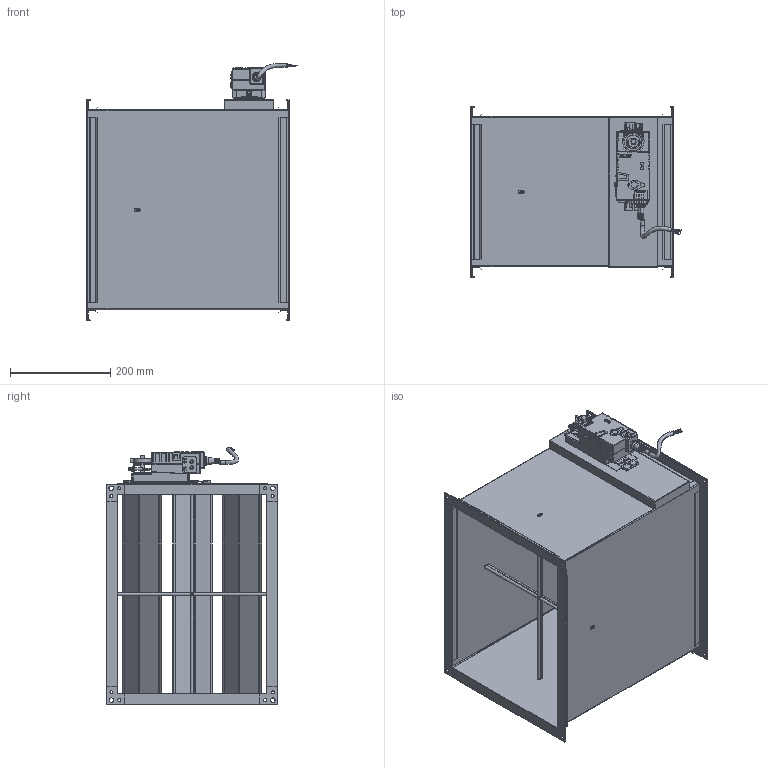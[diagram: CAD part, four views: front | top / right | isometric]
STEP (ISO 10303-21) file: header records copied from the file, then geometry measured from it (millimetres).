
FILE_DESCRIPTION (( 'STEP AP214' ), '1' );
FILE_NAME ('VAV-S400300.STEP', '2025-05-07T13:40:47', ( '' ), ( '' ), 'SwSTEP 2.0', 'SolidWorks 2025', '' );
FILE_SCHEMA (( 'AUTOMOTIVE_DESIGN' ));
Length unit declared in the file: millimetre
Products named in the file (1): VAV-S400300
Bounding box: 419.89 x 341 x 513.69 mm (x, y, z)
Surface area: 2039468 mm2 (no closed solid volume)
Topology: 0 solids, 58 shells, 2102 faces, 5420 edges, 3445 vertices
Faces by surface type: plane 1533, cylinder 516, bspline 24, sphere 18, cone 10, torus 1
Full cylindrical faces by diameter (mm): 1 x4, 4 x8, 5.876 x4, 6 x1, 6.102 x4, 8 x1, 9 x4, 11 x1, 20 x1, 21 x2
Entity records: 91921 total; most frequent: CARTESIAN_POINT 41779, ORIENTED_EDGE 10635, DIRECTION 6841, EDGE_CURVE 5341, VERTEX_POINT 3417, B_SPLINE_CURVE_WITH_KNOTS 3166, AXIS2_PLACEMENT_3D 2619, EDGE_LOOP 2299
